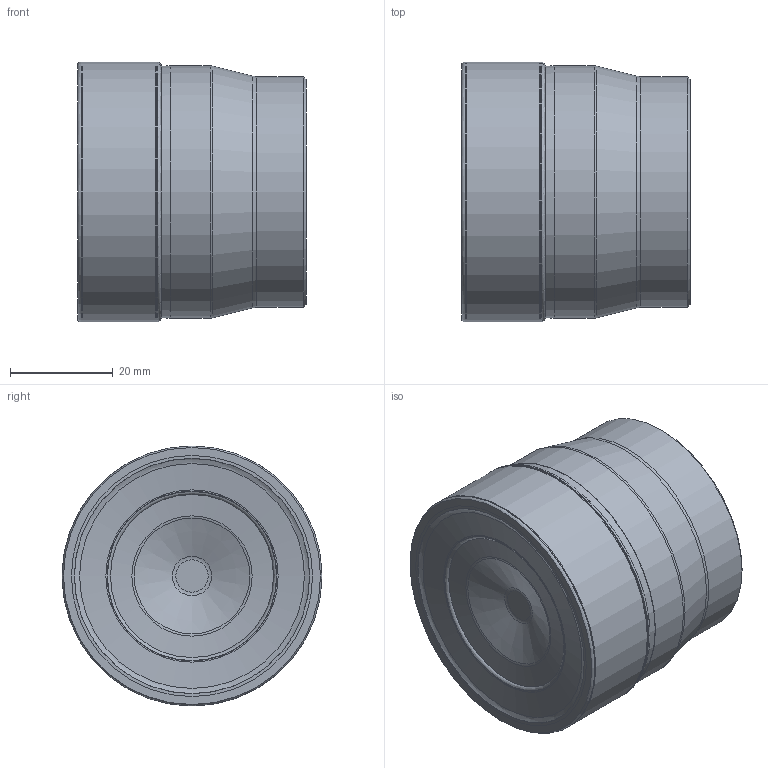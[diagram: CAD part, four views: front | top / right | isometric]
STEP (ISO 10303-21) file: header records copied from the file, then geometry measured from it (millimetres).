
FILE_DESCRIPTION(/* description */ (''),/* implementation_level */ '2;1');
FILE_NAME(/* name */ 'EMP02-2.00''''-A0.75''''-AP16-05.stp',/* time_stamp */ '2022-03-29T10:33:00+08:00',/* author */ (''),/* organization */ (''),/* preprocessor_version */ 'ST-DEVELOPER v16.7',/* originating_system */ 'SIEMENS PLM Software NX 12.0',/* authorisation */ '');
FILE_SCHEMA (('AUTOMOTIVE_DESIGN { 1 0 10303 214 3 1 1 1 }'));
Length unit declared in the file: millimetre
Products named in the file (1): heyu23945552hg8s
Bounding box: 44.45 x 50.65 x 50.65 mm (x, y, z)
Volume: 79131.5 mm3; surface area: 10458.5 mm2
Topology: 1 solids, 1 shells, 32 faces, 66 edges, 36 vertices
Faces by surface type: revolution 16, cone 7, torus 5, cylinder 2, plane 2
Full cylindrical faces by diameter (mm): 45 x1, 49.162 x1
Entity records: 762 total; most frequent: CARTESIAN_POINT 191, DIRECTION 112, EDGE_LOOP 62, ORIENTED_EDGE 62, FACE_BOUND 60, AXIS2_PLACEMENT_3D 48, ADVANCED_FACE 32, VERTEX_POINT 31
